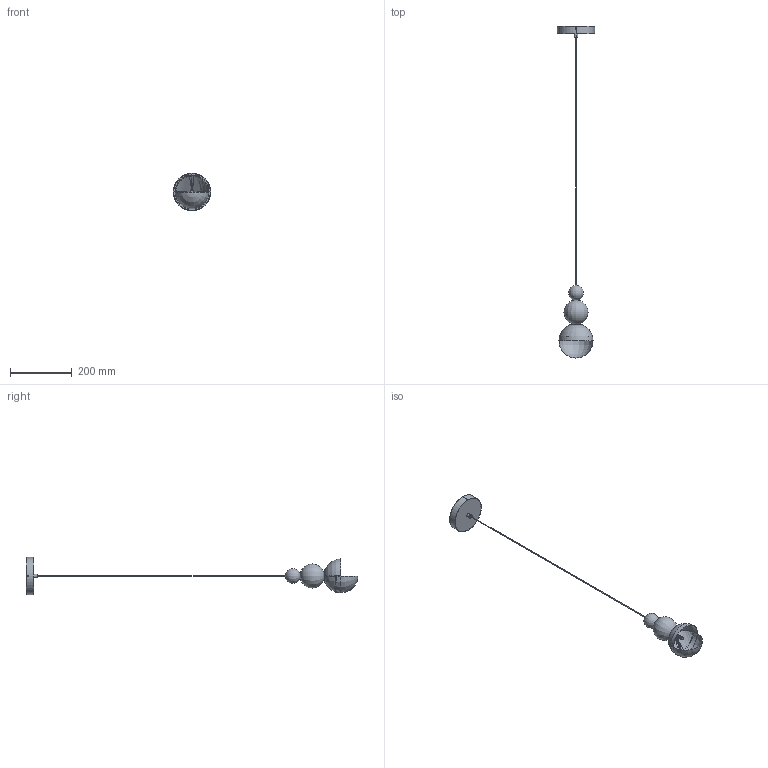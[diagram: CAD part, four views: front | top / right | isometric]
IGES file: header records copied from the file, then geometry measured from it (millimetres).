
Start section: SolidWorks IGES file using analytic representation for surfaces
Global section: file name: F:\燠隴矨\3D\2025-5\Elara Duo Pendant Lamp.IGS,15; native system: HSolidWorks 2022; preprocessor: SolidWorks 2022; author: MyPC; date: 250527.210602; units: millimetre
Bounding box: 120 x 1071.59 x 120 mm (x, y, z)
Surface area: 169449.8 mm2 (no closed solid volume)
Topology: 0 solids, 0 shells, 232 faces, 2701 edges, 2694 vertices
Faces by surface type: bspline 168, revolution 64
